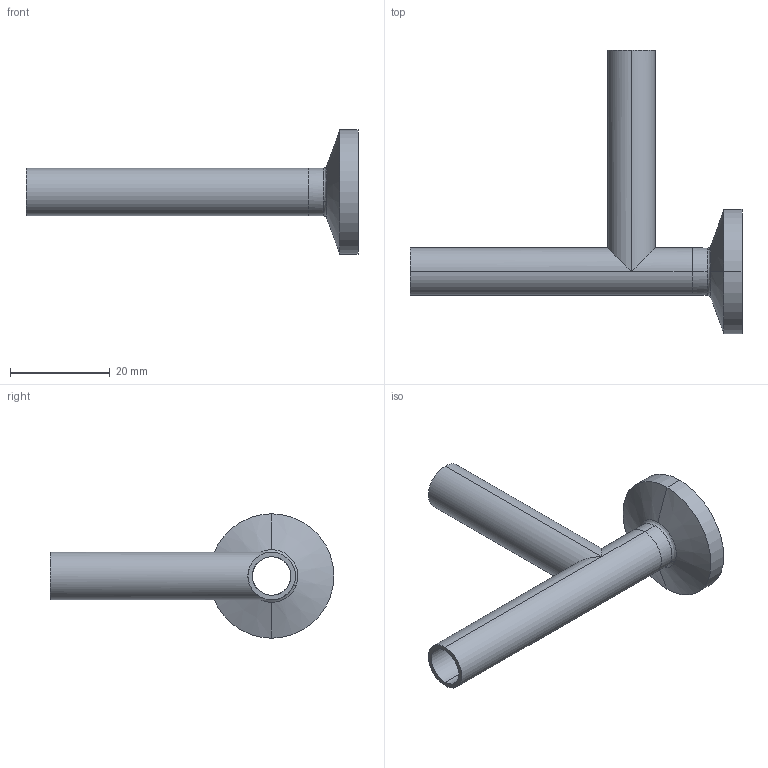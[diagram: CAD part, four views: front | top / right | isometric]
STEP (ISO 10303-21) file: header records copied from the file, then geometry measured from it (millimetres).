
FILE_DESCRIPTION (( 'STEP AP214' ), '1' );
FILE_NAME ('TE7WCSW6L.375-...STEP', '2016-05-24T11:40:35', ( 'eran' ), ( '' ), 'SwSTEP 2.0', 'SolidWorks 2016', '' );
FILE_SCHEMA (( 'AUTOMOTIVE_DESIGN' ));
Length unit declared in the file: millimetre
Products named in the file (1): TE7WCSW6L.375-..
Bounding box: 66.7 x 57 x 24.99 mm (x, y, z)
Volume: 4192.5 mm3; surface area: 6934.1 mm2
Topology: 2 solids, 2 shells, 36 faces, 86 edges, 54 vertices
Faces by surface type: cylinder 18, bspline 8, plane 6, cone 4
Entity records: 1697 total; most frequent: CARTESIAN_POINT 829, DIRECTION 176, ORIENTED_EDGE 172, EDGE_CURVE 86, AXIS2_PLACEMENT_3D 76, VERTEX_POINT 54, CIRCLE 47, EDGE_LOOP 42
